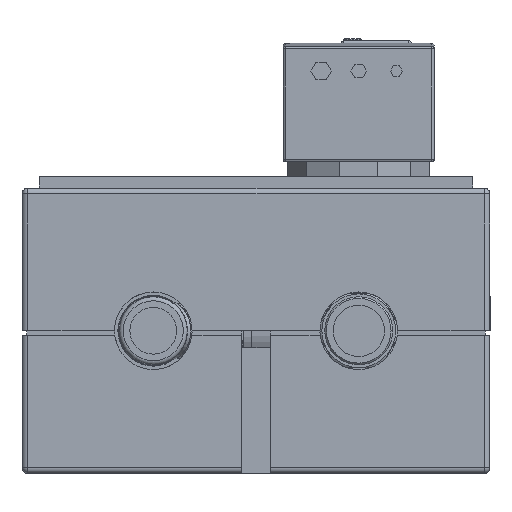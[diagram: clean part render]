
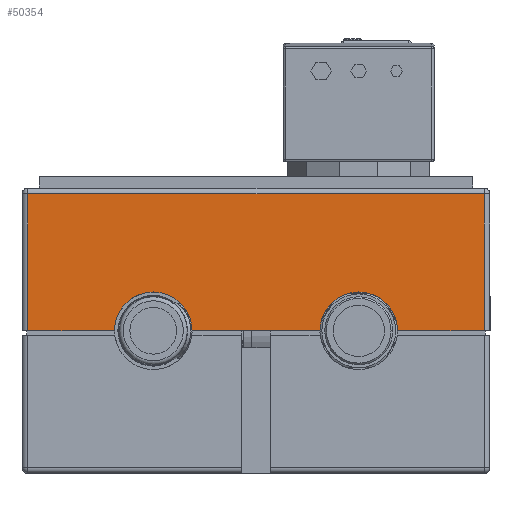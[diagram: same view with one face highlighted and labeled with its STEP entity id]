
A CAD part, left-side view. The second image highlights one B-rep face of the part: STEP entity #50354.
In plain terms, the highlighted planar face has unit normal (-1, 0, 0).
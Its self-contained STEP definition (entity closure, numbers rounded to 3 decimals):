
#47478=CARTESIAN_POINT('',(-550.7,-214.,0.));
#47479=VERTEX_POINT('',#47478);
#47486=CARTESIAN_POINT('',(-550.7,-146.,0.));
#47487=VERTEX_POINT('',#47486);
#47488=CARTESIAN_POINT('',(-550.7,-180.,0.));
#47489=DIRECTION('',(1.0,0.0,0.0));
#47490=DIRECTION('',(0.0,1.0,0.0));
#47491=AXIS2_PLACEMENT_3D('',#47488,#47489,#47490);
#47492=CIRCLE('',#47491,34.0);
#47493=EDGE_CURVE('',#47487,#47479,#47492,.T.);
#48571=CARTESIAN_POINT('',(-550.7,-34.,0.));
#48572=VERTEX_POINT('',#48571);
#48579=CARTESIAN_POINT('',(-550.7,34.,0.));
#48580=VERTEX_POINT('',#48579);
#48581=CARTESIAN_POINT('',(-550.7,0.,0.));
#48582=DIRECTION('',(1.0,0.0,0.0));
#48583=DIRECTION('',(0.0,1.0,0.0));
#48584=AXIS2_PLACEMENT_3D('',#48581,#48582,#48583);
#48585=CIRCLE('',#48584,34.0);
#48586=EDGE_CURVE('',#48580,#48572,#48585,.T.);
#48799=CARTESIAN_POINT('',(-550.7,110.,0.));
#48800=VERTEX_POINT('',#48799);
#48801=CARTESIAN_POINT('',(-550.7,34.,0.));
#48802=DIRECTION('',(0.0,1.0,0.0));
#48803=VECTOR('',#48802,76.);
#48804=LINE('',#48801,#48803);
#48805=EDGE_CURVE('',#48580,#48800,#48804,.T.);
#49165=CARTESIAN_POINT('',(-550.7,-290.,0.));
#49166=VERTEX_POINT('',#49165);
#49174=CARTESIAN_POINT('',(-550.7,-290.,0.));
#49175=DIRECTION('',(0.0,1.0,0.0));
#49176=VECTOR('',#49175,76.);
#49177=LINE('',#49174,#49176);
#49178=EDGE_CURVE('',#49166,#47479,#49177,.T.);
#50216=CARTESIAN_POINT('',(-550.7,110.,120.));
#50217=VERTEX_POINT('',#50216);
#50241=CARTESIAN_POINT('',(-550.7,-290.0,120.0));
#50242=VERTEX_POINT('',#50241);
#50286=CARTESIAN_POINT('',(-550.7,-290.,120.0));
#50287=DIRECTION('',(0.0,0.0,-1.0));
#50288=VECTOR('',#50287,120.0);
#50289=LINE('',#50286,#50288);
#50290=EDGE_CURVE('',#50242,#49166,#50289,.T.);
#50301=CARTESIAN_POINT('',(-550.7,110.,120.));
#50302=DIRECTION('',(0.0,-1.0,0.0));
#50303=VECTOR('',#50302,400.);
#50304=LINE('',#50301,#50303);
#50305=EDGE_CURVE('',#50217,#50242,#50304,.T.);
#50318=CARTESIAN_POINT('',(-550.7,110.,0.));
#50319=DIRECTION('',(0.0,0.0,1.0));
#50320=VECTOR('',#50319,120.);
#50321=LINE('',#50318,#50320);
#50322=EDGE_CURVE('',#48800,#50217,#50321,.T.);
#50334=CARTESIAN_POINT('',(-550.7,-295.,0.));
#50335=DIRECTION('',(-1.0,0.0,0.0));
#50336=DIRECTION('',(0.0,0.0,1.0));
#50337=AXIS2_PLACEMENT_3D('',#50334,#50335,#50336);
#50338=PLANE('',#50337);
#50339=ORIENTED_EDGE('',*,*,#50322,.F.);
#50340=ORIENTED_EDGE('',*,*,#48805,.F.);
#50341=ORIENTED_EDGE('',*,*,#48586,.T.);
#50342=CARTESIAN_POINT('',(-550.7,-146.,0.));
#50343=DIRECTION('',(0.0,1.0,0.0));
#50344=VECTOR('',#50343,112.);
#50345=LINE('',#50342,#50344);
#50346=EDGE_CURVE('',#47487,#48572,#50345,.T.);
#50347=ORIENTED_EDGE('',*,*,#50346,.F.);
#50348=ORIENTED_EDGE('',*,*,#47493,.T.);
#50349=ORIENTED_EDGE('',*,*,#49178,.F.);
#50350=ORIENTED_EDGE('',*,*,#50290,.F.);
#50351=ORIENTED_EDGE('',*,*,#50305,.F.);
#50352=EDGE_LOOP('',(#50339,#50340,#50341,#50347,#50348,#50349,#50350,#50351));
#50353=FACE_OUTER_BOUND('',#50352,.T.);
#50354=ADVANCED_FACE('',(#50353),#50338,.T.);
